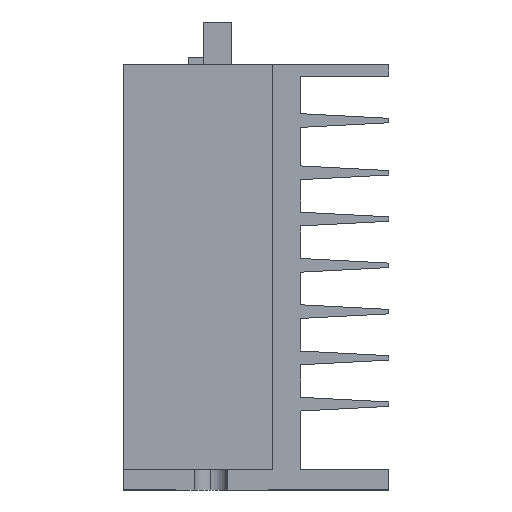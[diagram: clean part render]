
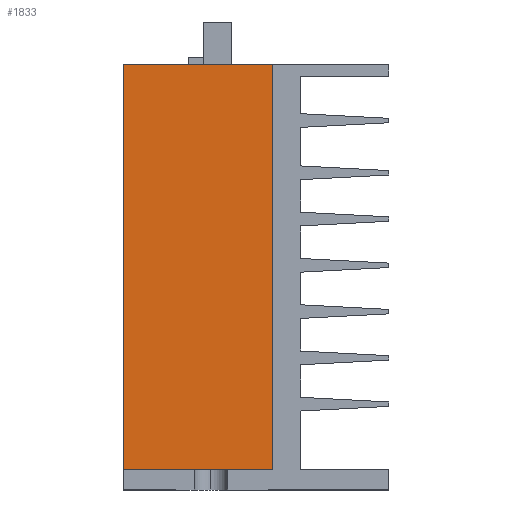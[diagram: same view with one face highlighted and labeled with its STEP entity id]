
A CAD part, left-side view. The second image highlights one B-rep face of the part: STEP entity #1833.
In plain terms, the highlighted planar face has unit normal (-1, 0, 0).
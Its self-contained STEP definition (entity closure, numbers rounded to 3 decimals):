
#27 = CARTESIAN_POINT ( 'NONE',  ( -40., 35.6, -25.8 ) ) ;
#35 = ORIENTED_EDGE ( 'NONE', *, *, #2875, .T. ) ;
#132 = CARTESIAN_POINT ( 'NONE',  ( -40., 35.6, 28.5 ) ) ;
#149 = VERTEX_POINT ( 'NONE', #1080 ) ;
#171 = DIRECTION ( 'NONE',  ( 0., -1., 0. ) ) ;
#281 = CARTESIAN_POINT ( 'NONE',  ( -40., 15.6, 0. ) ) ;
#316 = VECTOR ( 'NONE', #3925, 1000. ) ;
#387 = EDGE_CURVE ( 'NONE', #3327, #4299, #3324, .T. ) ;
#457 = VECTOR ( 'NONE', #4359, 1000. ) ;
#531 = CARTESIAN_POINT ( 'NONE',  ( -40., 31.45, -25.8 ) ) ;
#638 = LINE ( 'NONE', #3361, #3097 ) ;
#653 = VERTEX_POINT ( 'NONE', #132 ) ;
#785 = AXIS2_PLACEMENT_3D ( 'NONE', #4264, #867, #1906 ) ;
#807 = ORIENTED_EDGE ( 'NONE', *, *, #2328, .T. ) ;
#819 = CARTESIAN_POINT ( 'NONE',  ( -40., 31.45, -27.8 ) ) ;
#837 = DIRECTION ( 'NONE',  ( 0., -1., 0. ) ) ;
#858 = DIRECTION ( 'NONE',  ( 0., 0., 1. ) ) ;
#859 = VECTOR ( 'NONE', #3701, 1000. ) ;
#867 = DIRECTION ( 'NONE',  ( 1., 0., 0. ) ) ;
#885 = ORIENTED_EDGE ( 'NONE', *, *, #1373, .F. ) ;
#888 = PLANE ( 'NONE',  #785 ) ;
#928 = LINE ( 'NONE', #1597, #4203 ) ;
#967 = EDGE_CURVE ( 'NONE', #2965, #653, #1459, .T. ) ;
#992 = EDGE_CURVE ( 'NONE', #3327, #4370, #928, .T. ) ;
#995 = EDGE_LOOP ( 'NONE', ( #35, #885, #1479, #2699, #2469, #2229, #3532, #2771, #2369, #807 ) ) ;
#1021 = EDGE_CURVE ( 'NONE', #2965, #4465, #1187, .T. ) ;
#1080 = CARTESIAN_POINT ( 'NONE',  ( -40., 29.95, -25.8 ) ) ;
#1099 = EDGE_CURVE ( 'NONE', #4370, #149, #3948, .T. ) ;
#1136 = FACE_OUTER_BOUND ( 'NONE', #995, .T. ) ;
#1158 = CARTESIAN_POINT ( 'NONE',  ( -40., 15.6, -25.8 ) ) ;
#1187 = LINE ( 'NONE', #3239, #3267 ) ;
#1208 = VECTOR ( 'NONE', #2755, 1000. ) ;
#1251 = VERTEX_POINT ( 'NONE', #3153 ) ;
#1373 = EDGE_CURVE ( 'NONE', #653, #1251, #2138, .T. ) ;
#1459 = LINE ( 'NONE', #4231, #316 ) ;
#1479 = ORIENTED_EDGE ( 'NONE', *, *, #967, .F. ) ;
#1597 = CARTESIAN_POINT ( 'NONE',  ( -40., 0., -27.8 ) ) ;
#1712 = EDGE_CURVE ( 'NONE', #4465, #4299, #2157, .T. ) ;
#1832 = LINE ( 'NONE', #2541, #3952 ) ;
#1833 = ADVANCED_FACE ( 'NONE', ( #1136 ), #888, .F. ) ;
#1869 = DIRECTION ( 'NONE',  ( 0., -1., 0. ) ) ;
#1906 = DIRECTION ( 'NONE',  ( 0., 0., -1. ) ) ;
#2138 = LINE ( 'NONE', #3525, #4244 ) ;
#2157 = LINE ( 'NONE', #27, #1208 ) ;
#2172 = VECTOR ( 'NONE', #858, 1000. ) ;
#2229 = ORIENTED_EDGE ( 'NONE', *, *, #387, .F. ) ;
#2232 = EDGE_CURVE ( 'NONE', #149, #3866, #1832, .T. ) ;
#2306 = CARTESIAN_POINT ( 'NONE',  ( -40., 29.213, -25.8 ) ) ;
#2328 = EDGE_CURVE ( 'NONE', #3866, #3090, #638, .T. ) ;
#2369 = ORIENTED_EDGE ( 'NONE', *, *, #2232, .T. ) ;
#2469 = ORIENTED_EDGE ( 'NONE', *, *, #1712, .T. ) ;
#2541 = CARTESIAN_POINT ( 'NONE',  ( -40., 35.6, -25.8 ) ) ;
#2699 = ORIENTED_EDGE ( 'NONE', *, *, #1021, .T. ) ;
#2755 = DIRECTION ( 'NONE',  ( 0., -1., 0. ) ) ;
#2771 = ORIENTED_EDGE ( 'NONE', *, *, #1099, .T. ) ;
#2875 = EDGE_CURVE ( 'NONE', #3090, #1251, #4136, .T. ) ;
#2916 = CARTESIAN_POINT ( 'NONE',  ( -40., 29.95, -27.8 ) ) ;
#2965 = VERTEX_POINT ( 'NONE', #4157 ) ;
#2979 = CARTESIAN_POINT ( 'NONE',  ( -40., 31.45, -27.8 ) ) ;
#3090 = VERTEX_POINT ( 'NONE', #1158 ) ;
#3097 = VECTOR ( 'NONE', #4425, 1000. ) ;
#3102 = CARTESIAN_POINT ( 'NONE',  ( -40., 29.95, -27.8 ) ) ;
#3153 = CARTESIAN_POINT ( 'NONE',  ( -40., 15.6, 28.5 ) ) ;
#3239 = CARTESIAN_POINT ( 'NONE',  ( -40., 35.6, -25.8 ) ) ;
#3267 = VECTOR ( 'NONE', #837, 1000. ) ;
#3324 = LINE ( 'NONE', #2979, #457 ) ;
#3327 = VERTEX_POINT ( 'NONE', #819 ) ;
#3361 = CARTESIAN_POINT ( 'NONE',  ( -40., 35.6, -25.8 ) ) ;
#3525 = CARTESIAN_POINT ( 'NONE',  ( -40., 35.6, 28.5 ) ) ;
#3532 = ORIENTED_EDGE ( 'NONE', *, *, #992, .T. ) ;
#3701 = DIRECTION ( 'NONE',  ( 0., 0., 1. ) ) ;
#3866 = VERTEX_POINT ( 'NONE', #2306 ) ;
#3890 = CARTESIAN_POINT ( 'NONE',  ( -40., 32.187, -25.8 ) ) ;
#3925 = DIRECTION ( 'NONE',  ( 0., 0., 1. ) ) ;
#3948 = LINE ( 'NONE', #2916, #2172 ) ;
#3952 = VECTOR ( 'NONE', #171, 1000. ) ;
#4136 = LINE ( 'NONE', #281, #859 ) ;
#4157 = CARTESIAN_POINT ( 'NONE',  ( -40., 35.6, -25.8 ) ) ;
#4203 = VECTOR ( 'NONE', #4297, 1000. ) ;
#4231 = CARTESIAN_POINT ( 'NONE',  ( -40., 35.6, 0. ) ) ;
#4244 = VECTOR ( 'NONE', #1869, 1000. ) ;
#4264 = CARTESIAN_POINT ( 'NONE',  ( -40., 35.6, 0. ) ) ;
#4297 = DIRECTION ( 'NONE',  ( 0., -1., 0. ) ) ;
#4299 = VERTEX_POINT ( 'NONE', #531 ) ;
#4359 = DIRECTION ( 'NONE',  ( 0., 0., 1. ) ) ;
#4370 = VERTEX_POINT ( 'NONE', #3102 ) ;
#4425 = DIRECTION ( 'NONE',  ( 0., -1., 0. ) ) ;
#4465 = VERTEX_POINT ( 'NONE', #3890 ) ;
